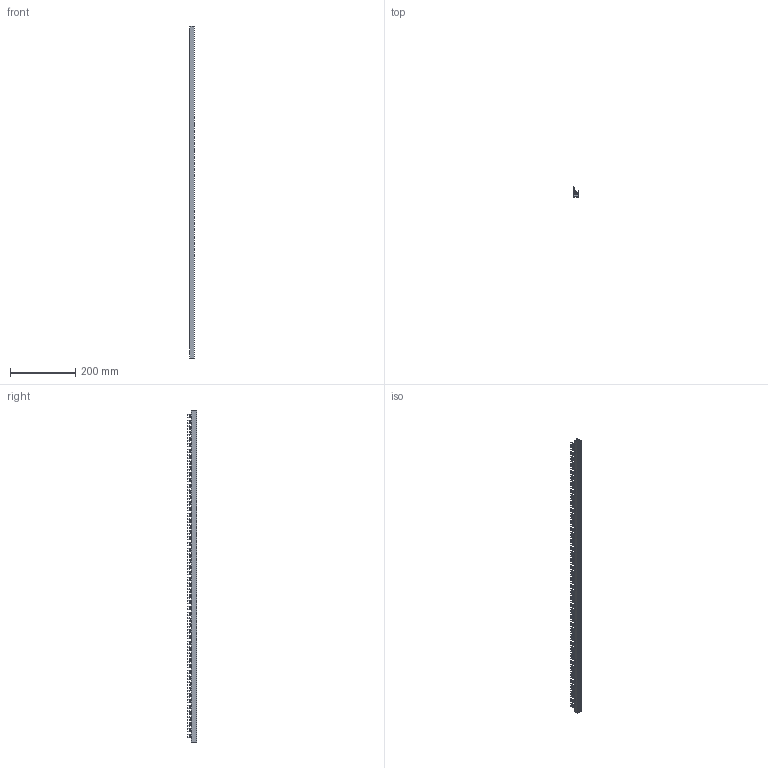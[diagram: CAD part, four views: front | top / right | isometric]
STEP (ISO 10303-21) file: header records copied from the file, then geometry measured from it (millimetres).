
FILE_DESCRIPTION (( 'STEP AP214' ), '1' );
FILE_NAME ('G2L-1000-16.step', '2011-08-05T07:53:45', ( 'Radek Veselý' ), ( 'Siemens and Partners' ), 'SwSTEP 2.0', 'SolidWorks 2006303', '' );
FILE_SCHEMA (( 'AUTOMOTIVE_DESIGN' ));
Length unit declared in the file: millimetre
Products named in the file (1): G2L-1000-16
Bounding box: 14.9 x 29 x 1016 mm (x, y, z)
Volume: 136093.6 mm3; surface area: 255227.3 mm2
Topology: 3 solids, 3 shells, 1631 faces, 4427 edges, 2802 vertices
Faces by surface type: cylinder 909, plane 722
Entity records: 68569 total; most frequent: CARTESIAN_POINT 10205, ORIENTED_EDGE 8854, DIRECTION 8165, EDGE_CURVE 4427, VECTOR 3057, LINE 3057, VERTEX_POINT 2802, AXIS2_PLACEMENT_3D 2554
